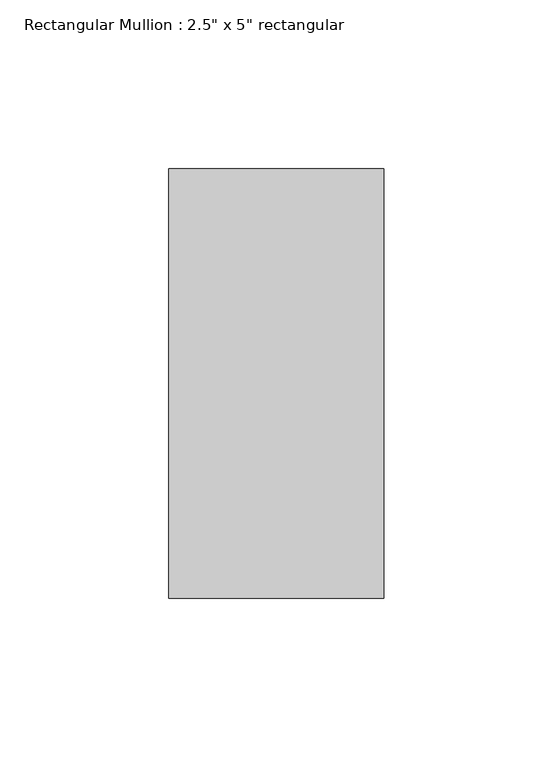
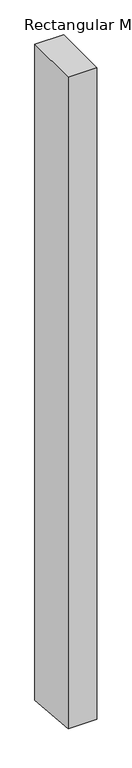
"""IFC4 building model written with IfcOpenShell, lengths in millimetres: member geometry."""

from ifc_helpers import new_model, si_unit, frame, origin, place, context, project, spatial, polyline, outline, extrude, source, transform, mapped, element, save


def member_043ce83e(model_context):
    return source(origin(), model_context, "Body", "SweptSolid", [
        extrude(outline(polyline([(-63.5, 0.0), (63.5, 0.0), (63.5, -1529.3101368), (-63.5, -1518.6898632), (-63.5, 0.0)])), frame((-31.75, 0.0, 0.0), z_axis=(1.0, 0.0, 0.0), x_axis=(0.0, 1.0, 0.0)), (0.0, 0.0, 1.0), 63.5),
    ])


if __name__ == "__main__":
    model = new_model("IFC4")
    model_context = context("Model", 3, world=origin())
    ifc_project = project(units=[si_unit("LENGTHUNIT", "METRE", prefix="MILLI")], contexts=[model_context])
    site = spatial("IfcSite", under=ifc_project)
    building = spatial("IfcBuilding", under=site)
    placement = place(None, origin())
    member_shape = member_043ce83e(model_context)
    element("IfcMember", 1, ObjectType="Rectangular Mullion : 2.5\" x 5\" rectangular", at=placement, inside=building, context=model_context, shape_type="MappedRepresentation", body=[
        mapped(member_shape, transform((0.0, 0.0, 0.0), x_axis=(1.0, 0.0, 0.0), y_axis=(0.0, 1.0, 0.0), z_axis=(0.0, 0.0, 1.0))),
    ])
    save(model, "model.ifc")
